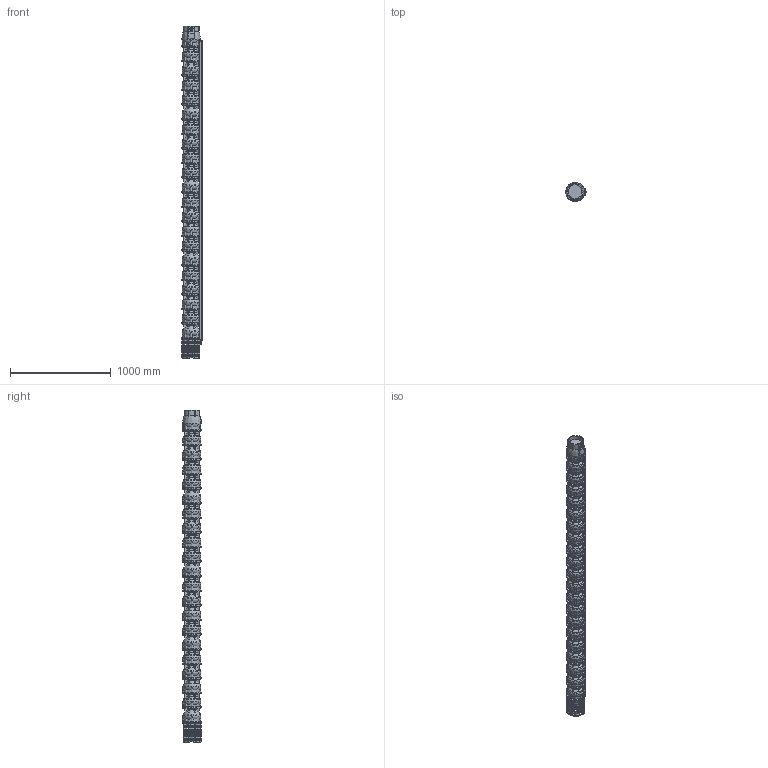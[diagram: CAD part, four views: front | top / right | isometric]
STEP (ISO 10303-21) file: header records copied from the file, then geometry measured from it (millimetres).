
FILE_DESCRIPTION(/* description */ ('Unknown'),/* implementation_level */ '2;1');
FILE_NAME(/* name */ 'VSI134-20_WR_M8-50_DLE',/* time_stamp */ '2023-09-14T14:39:49+02:00',/* author */ ('Unknown'),/* organization */ ('Unknown'),/* preprocessor_version */ 'ST-DEVELOPER v18.102',/* originating_system */ 'Solid Edge',/* authorisation */ 'Unknown');
FILE_SCHEMA (('AUTOMOTIVE_DESIGN { 1 0 10303 214 3 1 1 }','AUTOMOTIVE_DESIGN {1 0 10303 214 3 1 1}'));
Products named in the file (11): VSI134-20_WR_M8-50_DLE; VSI134_testata; VSI134_diffusore; VSI134_supporto_8×8; VSI134_filtro_A; VSI134_filtro_B; VSI134_terminale_top_copricavo_basso; VSI134_terminale_bottom_copricavo_basso; LOW 134-20; M5X8_UNI7687; VSI134_giunto_8×8
Assembly tree (38 placements, depth 2):
  VSI134-20_WR_M8-50_DLE
    VSI134_testata
    VSI134_diffusore  x20
    VSI134_supporto_8×8
    VSI134_filtro_A
    VSI134_filtro_B
    VSI134_terminale_top_copricavo_basso
    VSI134_terminale_bottom_copricavo_basso
    LOW 134-20
    M5X8_UNI7687  x10
    VSI134_giunto_8×8
Bounding box: 201.57 x 183.52 x 3297 mm (x, y, z)
Volume: 61630885.2 mm3; surface area: 4366229.2 mm2
Topology: 77 solids, 79 shells, 5765 faces, 16289 edges, 10884 vertices
Faces by surface type: plane 4020, torus 914, cylinder 717, cone 71, bspline 31, sphere 12
Full cylindrical faces by diameter (mm): 2.4 x2, 3 x2, 4.2 x16, 5 x10, 5.5 x8, 26 x1, 44 x1, 69 x1, 74 x1, 98 x1, 135.472 x1, 157 x1, 182 x21
Entity records: 85617 total; most frequent: CARTESIAN_POINT 18371, ORIENTED_EDGE 14056, DIRECTION 13506, EDGE_CURVE 7028, VERTEX_POINT 4730, AXIS2_PLACEMENT_3D 4604, LINE 4298, VECTOR 4298
